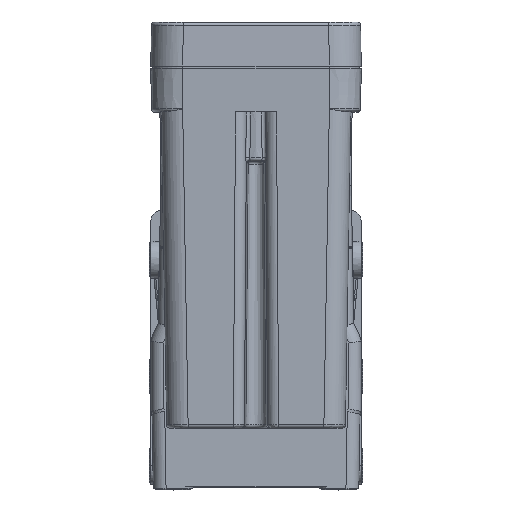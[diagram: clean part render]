
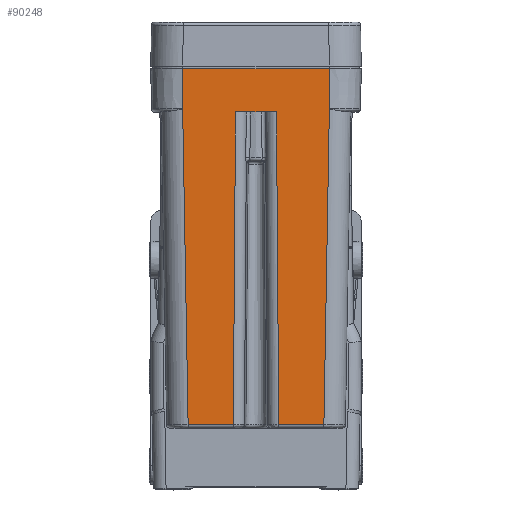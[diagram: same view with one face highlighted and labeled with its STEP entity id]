
A CAD part, top view. The second image highlights one B-rep face of the part: STEP entity #90248.
In plain terms, the highlighted planar face has unit normal (0, -0.018, 1).
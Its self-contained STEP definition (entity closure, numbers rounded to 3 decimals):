
#4244=DIRECTION('',(1.,0.,0.));
#4245=VECTOR('',#4244,6.418);
#4246=CARTESIAN_POINT('',(-3.209,41.4,30.881));
#4247=LINE('',#4246,#4245);
#4298=DIRECTION('',(-1.,0.,0.));
#4299=VECTOR('',#4298,7.08);
#4300=CARTESIAN_POINT('',(10.644,-7.659,30.025));
#4301=LINE('',#4300,#4299);
#4302=DIRECTION('',(-0.007,1.,0.017));
#4303=VECTOR('',#4302,49.067);
#4304=CARTESIAN_POINT('',(3.564,-7.659,30.025));
#4305=LINE('',#4304,#4303);
#4306=DIRECTION('',(-0.007,-1.,-0.017));
#4307=VECTOR('',#4306,49.067);
#4308=CARTESIAN_POINT('',(-3.209,41.4,30.881));
#4309=LINE('',#4308,#4307);
#4310=DIRECTION('',(-1.,0.,0.));
#4311=VECTOR('',#4310,7.08);
#4312=CARTESIAN_POINT('',(-3.564,-7.659,
30.025));
#4313=LINE('',#4312,#4311);
#4314=DIRECTION('',(0.001,1.,0.017));
#4315=VECTOR('',#4314,6.31);
#4316=CARTESIAN_POINT('',(-11.505,41.891,30.89));
#4317=LINE('',#4316,#4315);
#4323=DIRECTION('',(-0.001,1.,0.017));
#4324=VECTOR('',#4323,6.31);
#4325=CARTESIAN_POINT('',(11.505,41.891,30.89));
#4326=LINE('',#4325,#4324);
#6196=DIRECTION('',(1.,0.,0.));
#6197=VECTOR('',#6196,23.);
#6198=CARTESIAN_POINT('',(-11.5,48.2,31.));
#6199=LINE('',#6198,#6197);
#6487=DIRECTION('',(0.017,-1.,-0.017));
#6488=VECTOR('',#6487,49.565);
#6489=CARTESIAN_POINT('',(-11.505,41.891,30.89));
#6490=LINE('',#6489,#6488);
#64020=DIRECTION('',(0.017,1.,0.017));
#64021=VECTOR('',#64020,49.565);
#64022=CARTESIAN_POINT('',(10.644,-7.659,
30.025));
#64023=LINE('',#64022,#64021);
#64049=CARTESIAN_POINT('',(10.644,-7.659,
30.025));
#78785=CARTESIAN_POINT('',(-11.5,48.2,31.));
#78787=VERTEX_POINT('',#78785);
#78788=CARTESIAN_POINT('',(11.5,48.2,31.));
#78790=VERTEX_POINT('',#78788);
#79036=CARTESIAN_POINT('',(-11.5,41.891,30.89));
#79038=VERTEX_POINT('',#79036);
#79051=CARTESIAN_POINT('',(11.5,41.891,30.89));
#79053=VERTEX_POINT('',#79051);
#79098=CARTESIAN_POINT('',(-3.564,-7.659,
30.025));
#79099=CARTESIAN_POINT('',(-10.644,-7.659,
30.025));
#79100=VERTEX_POINT('',#79098);
#79101=VERTEX_POINT('',#79099);
#79107=VERTEX_POINT('',#64049);
#79110=CARTESIAN_POINT('',(3.564,-7.659,
30.025));
#79111=VERTEX_POINT('',#79110);
#79112=CARTESIAN_POINT('',(-3.209,41.4,30.881));
#79113=CARTESIAN_POINT('',(3.209,41.4,30.881));
#79114=VERTEX_POINT('',#79112);
#79115=VERTEX_POINT('',#79113);
#90225=CARTESIAN_POINT('',(-14.975,48.2,31.));
#90226=DIRECTION('',(0.,-0.017,1.));
#90227=DIRECTION('',(1.,0.,0.));
#90228=AXIS2_PLACEMENT_3D('',#90225,#90226,#90227);
#90229=PLANE('',#90228);
#90231=ORIENTED_EDGE('',*,*,#90230,.F.);
#90233=ORIENTED_EDGE('',*,*,#90232,.F.);
#90234=ORIENTED_EDGE('',*,*,#89893,.T.);
#90236=ORIENTED_EDGE('',*,*,#90235,.T.);
#90237=ORIENTED_EDGE('',*,*,#90128,.F.);
#90238=ORIENTED_EDGE('',*,*,#90144,.T.);
#90239=ORIENTED_EDGE('',*,*,#90216,.T.);
#90241=ORIENTED_EDGE('',*,*,#90240,.F.);
#90243=ORIENTED_EDGE('',*,*,#90242,.T.);
#90245=ORIENTED_EDGE('',*,*,#90244,.T.);
#90246=EDGE_LOOP('',(#90231,#90233,#90234,#90236,#90237,#90238,#90239,#90241,
#90243,#90245));
#90247=FACE_OUTER_BOUND('',#90246,.F.);
#89893=EDGE_CURVE('',#79107,#79111,#4301,.T.);
#90128=EDGE_CURVE('',#79114,#79115,#4247,.T.);
#90144=EDGE_CURVE('',#79114,#79100,#4309,.T.);
#90216=EDGE_CURVE('',#79100,#79101,#4313,.T.);
#90230=EDGE_CURVE('',#79053,#78790,#4326,.T.);
#90232=EDGE_CURVE('',#79107,#79053,#64023,.T.);
#90235=EDGE_CURVE('',#79111,#79115,#4305,.T.);
#90240=EDGE_CURVE('',#79038,#79101,#6490,.T.);
#90242=EDGE_CURVE('',#79038,#78787,#4317,.T.);
#90244=EDGE_CURVE('',#78787,#78790,#6199,.T.);
#90248=ADVANCED_FACE('',(#90247),#90229,.T.);
